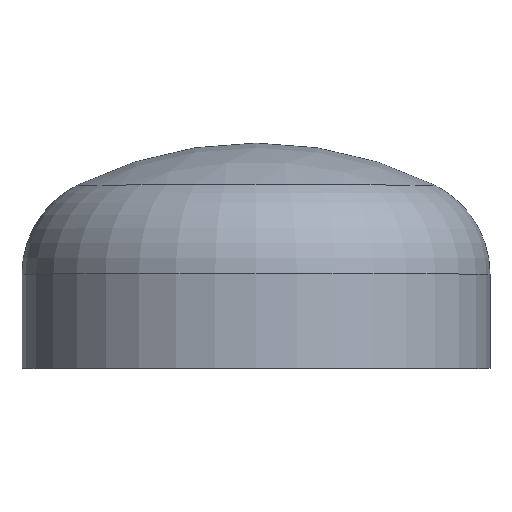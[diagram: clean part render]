
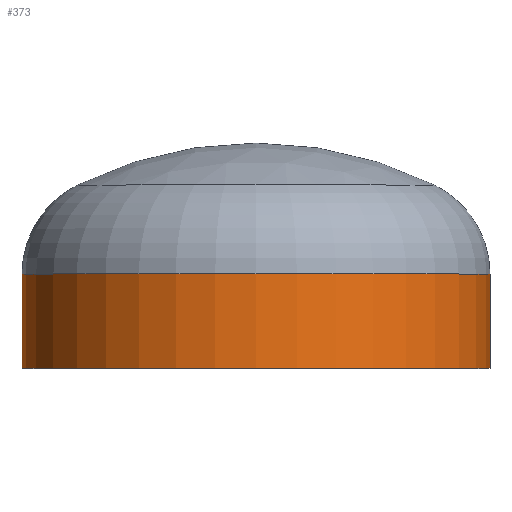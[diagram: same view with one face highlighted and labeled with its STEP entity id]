
A CAD part, top view. The second image highlights one B-rep face of the part: STEP entity #373.
In plain terms, the highlighted cylindrical face has radius 136.5 mm (diameter 273 mm), a partial arc.
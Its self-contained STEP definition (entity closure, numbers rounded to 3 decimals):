
#2 = ORIENTED_EDGE ( 'NONE', *, *, #331, .F. ) ;
#32 = AXIS2_PLACEMENT_3D ( 'NONE', #395, #382, #174 ) ;
#39 = DIRECTION ( 'NONE',  ( 0., -1., 0. ) ) ;
#84 = AXIS2_PLACEMENT_3D ( 'NONE', #364, #372, #299 ) ;
#86 = VERTEX_POINT ( 'NONE', #236 ) ;
#87 = ORIENTED_EDGE ( 'NONE', *, *, #130, .T. ) ;
#88 = VERTEX_POINT ( 'NONE', #223 ) ;
#96 = ORIENTED_EDGE ( 'NONE', *, *, #117, .T. ) ;
#112 = EDGE_LOOP ( 'NONE', ( #87, #96, #2, #147 ) ) ;
#117 = EDGE_CURVE ( 'NONE', #192, #86, #326, .T. ) ;
#127 = VERTEX_POINT ( 'NONE', #330 ) ;
#130 = EDGE_CURVE ( 'NONE', #127, #192, #318, .T. ) ;
#147 = ORIENTED_EDGE ( 'NONE', *, *, #402, .F. ) ;
#152 = CARTESIAN_POINT ( 'NONE',  ( 0., 0., 0. ) ) ;
#174 = DIRECTION ( 'NONE',  ( 1., 0., 0. ) ) ;
#185 = CYLINDRICAL_SURFACE ( 'NONE', #274, 136.5 ) ;
#192 = VERTEX_POINT ( 'NONE', #363 ) ;
#223 = CARTESIAN_POINT ( 'NONE',  ( 136.5, 0., 0. ) ) ;
#226 = DIRECTION ( 'NONE',  ( 0., -1., 0. ) ) ;
#228 = CARTESIAN_POINT ( 'NONE',  ( -136.5, 0., 0. ) ) ;
#236 = CARTESIAN_POINT ( 'NONE',  ( -136.5, 0., 0. ) ) ;
#248 = VECTOR ( 'NONE', #39, 1000. ) ;
#265 = CARTESIAN_POINT ( 'NONE',  ( 136.5, 0., 0. ) ) ;
#270 = DIRECTION ( 'NONE',  ( 1., 0., 0. ) ) ;
#274 = AXIS2_PLACEMENT_3D ( 'NONE', #152, #362, #270 ) ;
#299 = DIRECTION ( 'NONE',  ( 1., 0., 0. ) ) ;
#318 = CIRCLE ( 'NONE', #84, 136.5 ) ;
#323 = FACE_OUTER_BOUND ( 'NONE', #112, .T. ) ;
#326 = LINE ( 'NONE', #228, #380 ) ;
#330 = CARTESIAN_POINT ( 'NONE',  ( 136.5, 55., 0. ) ) ;
#331 = EDGE_CURVE ( 'NONE', #88, #86, #351, .T. ) ;
#351 = CIRCLE ( 'NONE', #32, 136.5 ) ;
#362 = DIRECTION ( 'NONE',  ( 0., -1., 0. ) ) ;
#363 = CARTESIAN_POINT ( 'NONE',  ( -136.5, 55., 0. ) ) ;
#364 = CARTESIAN_POINT ( 'NONE',  ( 0., 55., 0. ) ) ;
#372 = DIRECTION ( 'NONE',  ( 0., -1., 0. ) ) ;
#373 = ADVANCED_FACE ( 'NONE', ( #323 ), #185, .T. ) ;
#377 = LINE ( 'NONE', #265, #248 ) ;
#380 = VECTOR ( 'NONE', #226, 1000. ) ;
#382 = DIRECTION ( 'NONE',  ( 0., -1., 0. ) ) ;
#395 = CARTESIAN_POINT ( 'NONE',  ( 0., 0., 0. ) ) ;
#402 = EDGE_CURVE ( 'NONE', #127, #88, #377, .T. ) ;
